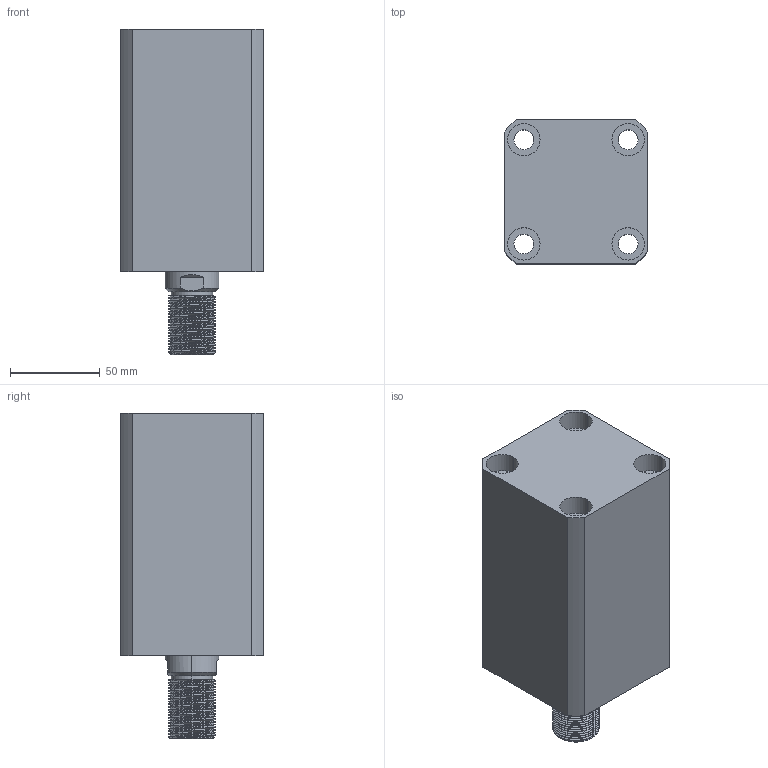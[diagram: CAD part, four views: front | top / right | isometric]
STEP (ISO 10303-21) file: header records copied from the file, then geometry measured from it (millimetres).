
FILE_DESCRIPTION (( 'STEP AP203' ), '1' );
FILE_NAME ('CHTB-SD50-75W.STEP', '2018-05-19T00:27:52', ( '' ), ( '' ), 'SwSTEP 2.0', 'SolidWorks 2015', '' );
FILE_SCHEMA (( 'CONFIG_CONTROL_DESIGN' ));
Length unit declared in the file: millimetre
Products named in the file (4): CHTM-SD50QG; 掛极SD50-75W; 活塞杆SD50-75W; CHTB-SD50-75W
Assembly tree (3 placements, depth 2):
  CHTB-SD50-75W
    掛极SD50-75W
    活塞杆SD50-75W
    CHTM-SD50QG
Bounding box: 80 x 80 x 181 mm (x, y, z)
Volume: 710598.1 mm3; surface area: 133711.3 mm2
Topology: 3 solids, 3 shells, 236 faces, 627 edges, 419 vertices
Faces by surface type: cylinder 144, plane 41, cone 19, bspline 16, torus 16
Entity records: 14613 total; most frequent: CARTESIAN_POINT 8784, ORIENTED_EDGE 1246, DIRECTION 1029, EDGE_CURVE 623, AXIS2_PLACEMENT_3D 422, VERTEX_POINT 419, EDGE_LOOP 276, ADVANCED_FACE 236
